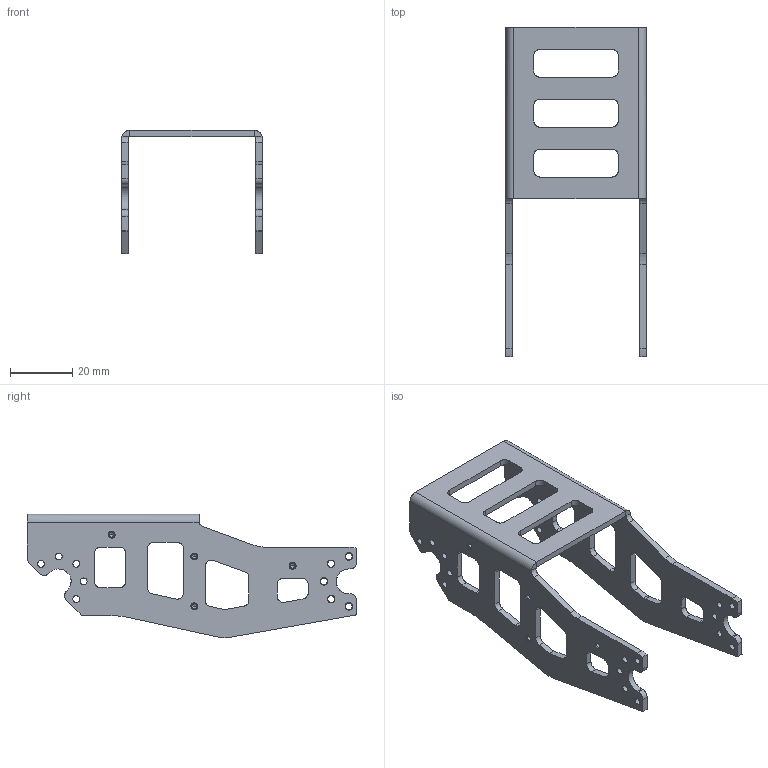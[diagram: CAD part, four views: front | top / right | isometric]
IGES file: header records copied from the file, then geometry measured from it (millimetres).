
Global section: file name: C:\Users\Knabe\Documents\Classes\8 Semester 8\DARwIn\Deliverables\DARwIn OP\DARwIn OP Part Files\OP 3D CAD Files\3D IGS\17_FR07_H133.igs; native system: NX V7.0; preprocessor: SIEMENS PLM Software NX 7.0; date: 20110525.180934; units: millimetre
Bounding box: 45 x 105.5 x 39.52 mm (x, y, z)
Surface area: 14915.2 mm2 (no closed solid volume)
Topology: 0 solids, 0 shells, 275 faces, 1918 edges, 1902 vertices
Faces by surface type: bspline 275
